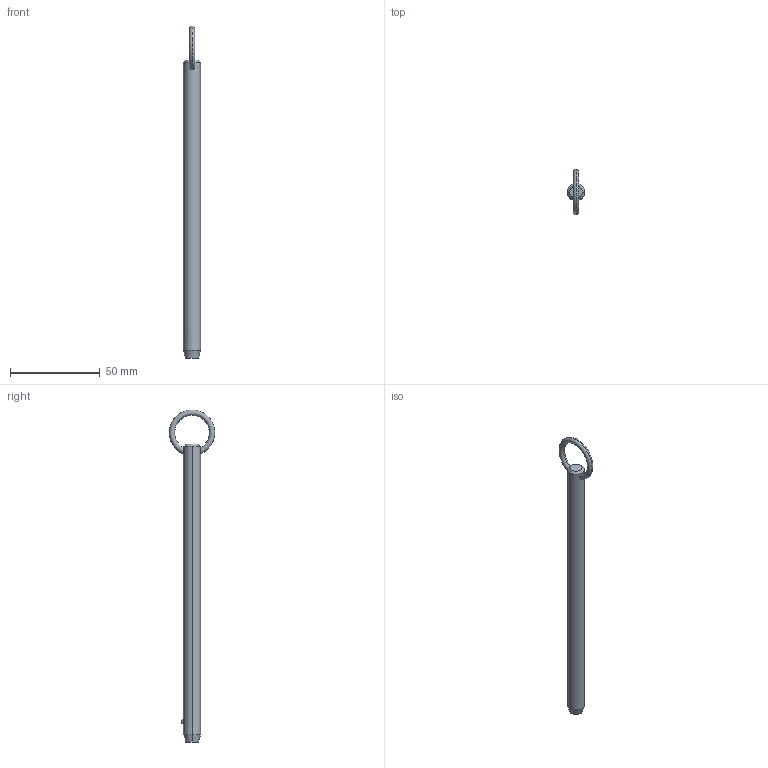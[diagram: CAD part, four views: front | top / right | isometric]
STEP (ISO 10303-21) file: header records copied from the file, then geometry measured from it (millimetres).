
FILE_DESCRIPTION (( 'STEP AP203' ), '1' );
FILE_NAME ('P1250.037-580.step', '2019-07-29T20:14:24', ( '' ), ( '' ), 'SwSTEP 2.0', 'SolidWorks 2017', '' );
FILE_SCHEMA (( 'CONFIG_CONTROL_DESIGN' ));
Length unit declared in the file: millimetre
Products named in the file (1): P1250.037-580
Bounding box: 9.52 x 25.39 x 185.4 mm (x, y, z)
Volume: 12192.1 mm3; surface area: 5617.4 mm2
Topology: 1 solids, 1 shells, 12 faces, 28 edges, 17 vertices
Faces by surface type: cone 4, torus 2, sphere 2, cylinder 2, plane 2
Entity records: 523 total; most frequent: CARTESIAN_POINT 190, DIRECTION 56, ORIENTED_EDGE 48, AXIS2_PLACEMENT_3D 25, EDGE_CURVE 24, EDGE_LOOP 15, VERTEX_POINT 15, CIRCLE 12
